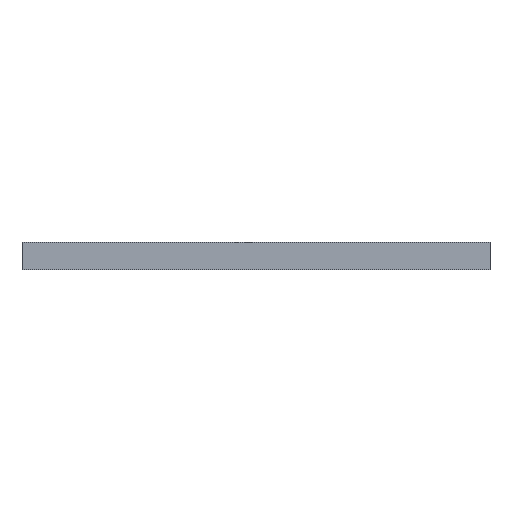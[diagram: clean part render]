
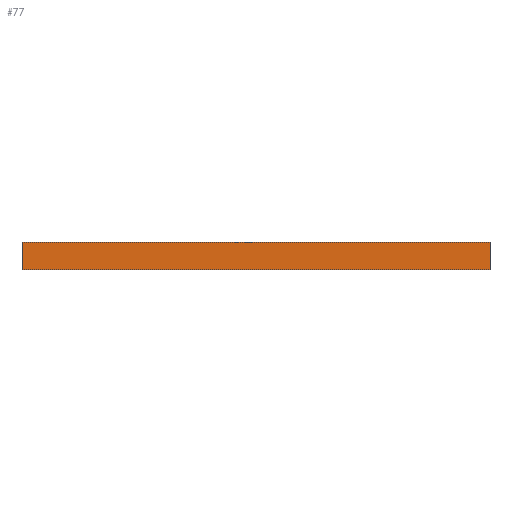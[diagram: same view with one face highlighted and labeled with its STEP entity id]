
A CAD part, front view. The second image highlights one B-rep face of the part: STEP entity #77.
In plain terms, the highlighted planar face has unit normal (0, -1, 0).
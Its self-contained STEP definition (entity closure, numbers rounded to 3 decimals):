
#77=ADVANCED_FACE('',(#150),#149,.T.);
#149=PLANE('',#590);
#150=FACE_OUTER_BOUND('',#591,.T.);
#587=CARTESIAN_POINT('',(-95.,-85.,-11.));
#588=DIRECTION('',(0.,-1.,0.));
#589=DIRECTION('',(1.,0.,0.));
#590=AXIS2_PLACEMENT_3D('',#587,#588,#589);
#591=EDGE_LOOP('',(#835,#836,#837,#838));
#835=ORIENTED_EDGE('',*,*,#1022,.F.);
#836=ORIENTED_EDGE('',*,*,#1050,.F.);
#837=ORIENTED_EDGE('',*,*,#1051,.T.);
#838=ORIENTED_EDGE('',*,*,#1047,.T.);
#1022=EDGE_CURVE('',#1142,#1127,#1149,.T.);
#1047=EDGE_CURVE('',#1323,#1127,#1324,.T.);
#1050=EDGE_CURVE('',#1343,#1142,#1344,.T.);
#1051=EDGE_CURVE('',#1343,#1323,#1350,.T.);
#1127=VERTEX_POINT('',#1847);
#1142=VERTEX_POINT('',#1856);
#1149=LINE('',#1860,#1861);
#1323=VERTEX_POINT('',#1983);
#1324=LINE('',#1984,#1985);
#1343=VERTEX_POINT('',#1994);
#1344=LINE('',#1995,#1996);
#1350=LINE('',#1998,#1999);
#1847=CARTESIAN_POINT('',(85.,-85.,0.));
#1856=CARTESIAN_POINT('',(-85.,-85.,0.));
#1860=CARTESIAN_POINT('',(-85.,-85.,0.));
#1861=VECTOR('',#1862,170.);
#1862=DIRECTION('',(1.,0.,0.));
#1983=CARTESIAN_POINT('',(85.,-85.,-10.));
#1984=CARTESIAN_POINT('',(85.,-85.,-10.));
#1985=VECTOR('',#1986,10.);
#1986=DIRECTION('',(0.,0.,1.));
#1994=CARTESIAN_POINT('',(-85.,-85.,-10.));
#1995=CARTESIAN_POINT('',(-85.,-85.,-10.));
#1996=VECTOR('',#1997,10.);
#1997=DIRECTION('',(0.,0.,1.));
#1998=CARTESIAN_POINT('',(-85.,-85.,-10.));
#1999=VECTOR('',#2000,170.);
#2000=DIRECTION('',(1.,0.,0.));
